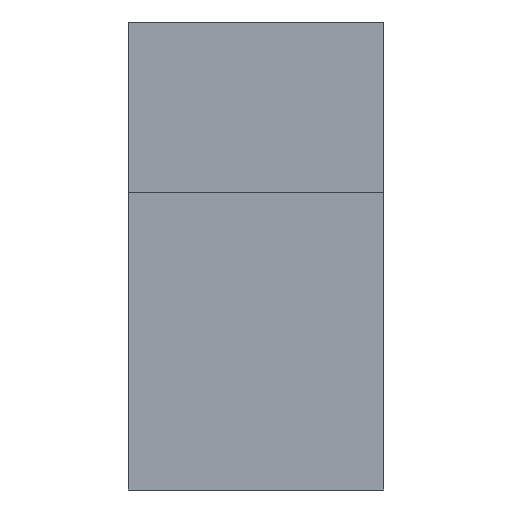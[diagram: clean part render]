
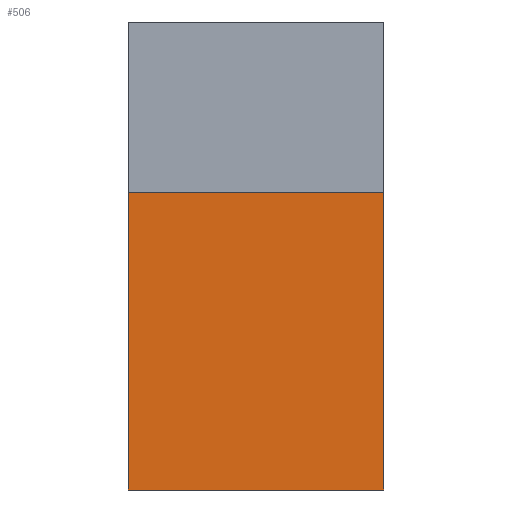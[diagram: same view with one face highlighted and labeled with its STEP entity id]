
A CAD part, front view. The second image highlights one B-rep face of the part: STEP entity #506.
In plain terms, the highlighted planar face has unit normal (0, -1, 0).
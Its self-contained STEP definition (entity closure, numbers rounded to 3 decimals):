
#57 = VERTEX_POINT('',#58);
#58 = CARTESIAN_POINT('',(-451.,-12.,17.));
#72 = PLANE('',#73);
#73 = AXIS2_PLACEMENT_3D('',#74,#75,#76);
#74 = CARTESIAN_POINT('',(-451.,-67.,17.));
#75 = DIRECTION('',(0.,0.,1.));
#76 = DIRECTION('',(1.,0.,-0.));
#100 = PLANE('',#101);
#101 = AXIS2_PLACEMENT_3D('',#102,#103,#104);
#102 = CARTESIAN_POINT('',(-451.,-12.,10.));
#103 = DIRECTION('',(1.,0.,-0.));
#104 = DIRECTION('',(0.,0.,1.));
#271 = EDGE_CURVE('',#272,#57,#274,.T.);
#272 = VERTEX_POINT('',#273);
#273 = CARTESIAN_POINT('',(-451.,-12.,10.));
#274 = SURFACE_CURVE('',#275,(#279,#286),.PCURVE_S1.);
#275 = LINE('',#276,#277);
#276 = CARTESIAN_POINT('',(-451.,-12.,10.));
#277 = VECTOR('',#278,1.);
#278 = DIRECTION('',(0.,0.,1.));
#279 = PCURVE('',#100,#280);
#280 = DEFINITIONAL_REPRESENTATION('',(#281),#285);
#281 = LINE('',#282,#283);
#282 = CARTESIAN_POINT('',(0.,0.));
#283 = VECTOR('',#284,1.);
#284 = DIRECTION('',(1.,0.));
#285 = ( GEOMETRIC_REPRESENTATION_CONTEXT(2) 
PARAMETRIC_REPRESENTATION_CONTEXT() REPRESENTATION_CONTEXT('2D SPACE',''
  ) );
#286 = PCURVE('',#287,#292);
#287 = PLANE('',#288);
#288 = AXIS2_PLACEMENT_3D('',#289,#290,#291);
#289 = CARTESIAN_POINT('',(-451.,-12.,10.));
#290 = DIRECTION('',(-0.,1.,0.));
#291 = DIRECTION('',(0.,0.,1.));
#292 = DEFINITIONAL_REPRESENTATION('',(#293),#297);
#293 = LINE('',#294,#295);
#294 = CARTESIAN_POINT('',(0.,0.));
#295 = VECTOR('',#296,1.);
#296 = DIRECTION('',(1.,0.));
#297 = ( GEOMETRIC_REPRESENTATION_CONTEXT(2) 
PARAMETRIC_REPRESENTATION_CONTEXT() REPRESENTATION_CONTEXT('2D SPACE',''
  ) );
#315 = PLANE('',#316);
#316 = AXIS2_PLACEMENT_3D('',#317,#318,#319);
#317 = CARTESIAN_POINT('',(-451.,-12.,10.));
#318 = DIRECTION('',(0.,0.,1.));
#319 = DIRECTION('',(1.,0.,-0.));
#383 = VERTEX_POINT('',#384);
#384 = CARTESIAN_POINT('',(-445.,-12.,17.));
#405 = EDGE_CURVE('',#57,#383,#406,.T.);
#406 = SURFACE_CURVE('',#407,(#411,#418),.PCURVE_S1.);
#407 = LINE('',#408,#409);
#408 = CARTESIAN_POINT('',(-451.,-12.,17.));
#409 = VECTOR('',#410,1.);
#410 = DIRECTION('',(1.,0.,-0.));
#411 = PCURVE('',#72,#412);
#412 = DEFINITIONAL_REPRESENTATION('',(#413),#417);
#413 = LINE('',#414,#415);
#414 = CARTESIAN_POINT('',(0.,55.));
#415 = VECTOR('',#416,1.);
#416 = DIRECTION('',(1.,0.));
#417 = ( GEOMETRIC_REPRESENTATION_CONTEXT(2) 
PARAMETRIC_REPRESENTATION_CONTEXT() REPRESENTATION_CONTEXT('2D SPACE',''
  ) );
#418 = PCURVE('',#287,#419);
#419 = DEFINITIONAL_REPRESENTATION('',(#420),#424);
#420 = LINE('',#421,#422);
#421 = CARTESIAN_POINT('',(7.,0.));
#422 = VECTOR('',#423,1.);
#423 = DIRECTION('',(0.,1.));
#424 = ( GEOMETRIC_REPRESENTATION_CONTEXT(2) 
PARAMETRIC_REPRESENTATION_CONTEXT() REPRESENTATION_CONTEXT('2D SPACE',''
  ) );
#445 = PLANE('',#446);
#446 = AXIS2_PLACEMENT_3D('',#447,#448,#449);
#447 = CARTESIAN_POINT('',(-445.,-12.,10.));
#448 = DIRECTION('',(1.,0.,-0.));
#449 = DIRECTION('',(0.,0.,1.));
#506 = ADVANCED_FACE('',(#507),#287,.F.);
#507 = FACE_BOUND('',#508,.F.);
#508 = EDGE_LOOP('',(#509,#532,#553,#554));
#509 = ORIENTED_EDGE('',*,*,#510,.F.);
#510 = EDGE_CURVE('',#511,#383,#513,.T.);
#511 = VERTEX_POINT('',#512);
#512 = CARTESIAN_POINT('',(-445.,-12.,10.));
#513 = SURFACE_CURVE('',#514,(#518,#525),.PCURVE_S1.);
#514 = LINE('',#515,#516);
#515 = CARTESIAN_POINT('',(-445.,-12.,10.));
#516 = VECTOR('',#517,1.);
#517 = DIRECTION('',(0.,0.,1.));
#518 = PCURVE('',#287,#519);
#519 = DEFINITIONAL_REPRESENTATION('',(#520),#524);
#520 = LINE('',#521,#522);
#521 = CARTESIAN_POINT('',(0.,6.));
#522 = VECTOR('',#523,1.);
#523 = DIRECTION('',(1.,0.));
#524 = ( GEOMETRIC_REPRESENTATION_CONTEXT(2) 
PARAMETRIC_REPRESENTATION_CONTEXT() REPRESENTATION_CONTEXT('2D SPACE',''
  ) );
#525 = PCURVE('',#445,#526);
#526 = DEFINITIONAL_REPRESENTATION('',(#527),#531);
#527 = LINE('',#528,#529);
#528 = CARTESIAN_POINT('',(0.,0.));
#529 = VECTOR('',#530,1.);
#530 = DIRECTION('',(1.,0.));
#531 = ( GEOMETRIC_REPRESENTATION_CONTEXT(2) 
PARAMETRIC_REPRESENTATION_CONTEXT() REPRESENTATION_CONTEXT('2D SPACE',''
  ) );
#532 = ORIENTED_EDGE('',*,*,#533,.F.);
#533 = EDGE_CURVE('',#272,#511,#534,.T.);
#534 = SURFACE_CURVE('',#535,(#539,#546),.PCURVE_S1.);
#535 = LINE('',#536,#537);
#536 = CARTESIAN_POINT('',(-451.,-12.,10.));
#537 = VECTOR('',#538,1.);
#538 = DIRECTION('',(1.,0.,-0.));
#539 = PCURVE('',#287,#540);
#540 = DEFINITIONAL_REPRESENTATION('',(#541),#545);
#541 = LINE('',#542,#543);
#542 = CARTESIAN_POINT('',(0.,0.));
#543 = VECTOR('',#544,1.);
#544 = DIRECTION('',(0.,1.));
#545 = ( GEOMETRIC_REPRESENTATION_CONTEXT(2) 
PARAMETRIC_REPRESENTATION_CONTEXT() REPRESENTATION_CONTEXT('2D SPACE',''
  ) );
#546 = PCURVE('',#315,#547);
#547 = DEFINITIONAL_REPRESENTATION('',(#548),#552);
#548 = LINE('',#549,#550);
#549 = CARTESIAN_POINT('',(0.,0.));
#550 = VECTOR('',#551,1.);
#551 = DIRECTION('',(1.,0.));
#552 = ( GEOMETRIC_REPRESENTATION_CONTEXT(2) 
PARAMETRIC_REPRESENTATION_CONTEXT() REPRESENTATION_CONTEXT('2D SPACE',''
  ) );
#553 = ORIENTED_EDGE('',*,*,#271,.T.);
#554 = ORIENTED_EDGE('',*,*,#405,.T.);
